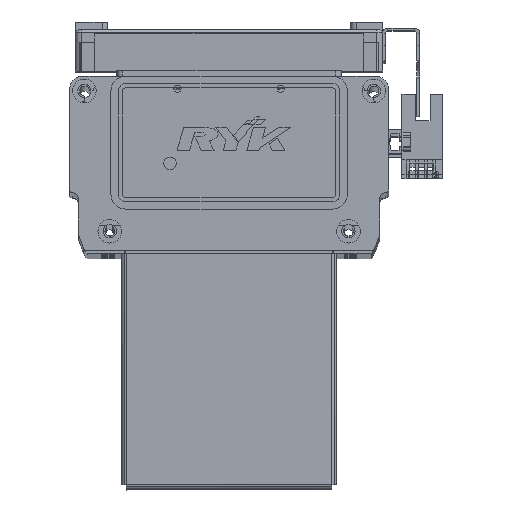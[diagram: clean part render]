
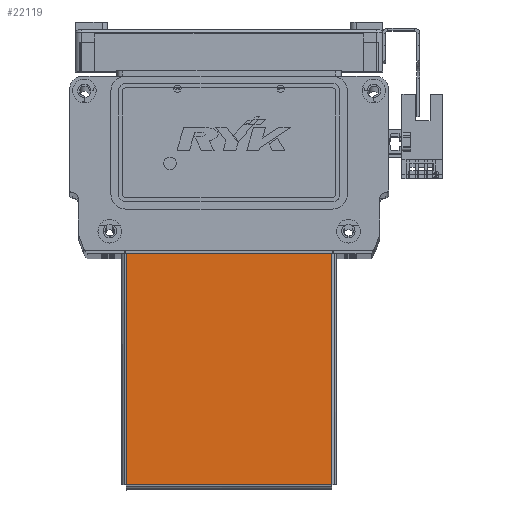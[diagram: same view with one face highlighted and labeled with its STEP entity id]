
A CAD part, top view. The second image highlights one B-rep face of the part: STEP entity #22119.
In plain terms, the highlighted planar face has unit normal (0, 0, 1) as drawn and (0, 1, 0) by its records, which use the part's own axes.
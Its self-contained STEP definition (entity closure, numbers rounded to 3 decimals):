
#1313 = ORIENTED_EDGE ( 'NONE', *, *, #35927, .T. ) ;
#1327 = ORIENTED_EDGE ( 'NONE', *, *, #35871, .T. ) ;
#1340 = ORIENTED_EDGE ( 'NONE', *, *, #35742, .T. ) ;
#1342 = ORIENTED_EDGE ( 'NONE', *, *, #35792, .T. ) ;
#2750 = CARTESIAN_POINT ( 'NONE',  ( -34.793, 0., 38.763 ) ) ;
#2774 = DIRECTION ( 'NONE',  ( 1., 0., 0. ) ) ;
#2839 = DIRECTION ( 'NONE',  ( 0., 0., 1. ) ) ;
#2858 = CARTESIAN_POINT ( 'NONE',  ( -34.763, 0., -39.5 ) ) ;
#2935 = CARTESIAN_POINT ( 'NONE',  ( 34.763, 0., 38.793 ) ) ;
#2957 = DIRECTION ( 'NONE',  ( 0., 0., -1. ) ) ;
#2975 = CARTESIAN_POINT ( 'NONE',  ( -35.5, 0., -39.5 ) ) ;
#2976 = DIRECTION ( 'NONE',  ( -1., 0., 0. ) ) ;
#5599 = VERTEX_POINT ( 'NONE', #23843 ) ;
#5600 = VERTEX_POINT ( 'NONE', #23867 ) ;
#5629 = VERTEX_POINT ( 'NONE', #23901 ) ;
#5648 = VERTEX_POINT ( 'NONE', #23967 ) ;
#10409 = AXIS2_PLACEMENT_3D ( 'NONE', #30656, #30645, #30648 ) ;
#10630 = VECTOR ( 'NONE', #2774, 1000. ) ;
#10657 = LINE ( 'NONE', #2750, #10630 ) ;
#10699 = VECTOR ( 'NONE', #2839, 1000. ) ;
#10737 = LINE ( 'NONE', #2858, #10699 ) ;
#10770 = LINE ( 'NONE', #2935, #10771 ) ;
#10771 = VECTOR ( 'NONE', #2957, 1000. ) ;
#10839 = LINE ( 'NONE', #2975, #10860 ) ;
#10860 = VECTOR ( 'NONE', #2976, 1000. ) ;
#22119 = ADVANCED_FACE ( 'NONE', ( #46410 ), #30642, .T. ) ;
#23843 = CARTESIAN_POINT ( 'NONE',  ( -34.763, 0., -39.5 ) ) ;
#23867 = CARTESIAN_POINT ( 'NONE',  ( 34.763, 0., 38.763 ) ) ;
#23901 = CARTESIAN_POINT ( 'NONE',  ( -34.763, 0., 38.763 ) ) ;
#23967 = CARTESIAN_POINT ( 'NONE',  ( 34.763, 0., -39.5 ) ) ;
#25204 = EDGE_LOOP ( 'NONE', ( #1342, #1340, #1327, #1313 ) ) ;
#30642 = PLANE ( 'NONE',  #10409 ) ;
#30645 = DIRECTION ( 'NONE',  ( 0., 1., 0. ) ) ;
#30648 = DIRECTION ( 'NONE',  ( 0., 0., 1. ) ) ;
#30656 = CARTESIAN_POINT ( 'NONE',  ( 0., 0., 0. ) ) ;
#35742 = EDGE_CURVE ( 'NONE', #5629, #5600, #10657, .T. ) ;
#35792 = EDGE_CURVE ( 'NONE', #5599, #5629, #10737, .T. ) ;
#35871 = EDGE_CURVE ( 'NONE', #5600, #5648, #10770, .T. ) ;
#35927 = EDGE_CURVE ( 'NONE', #5648, #5599, #10839, .T. ) ;
#46410 = FACE_OUTER_BOUND ( 'NONE', #25204, .T. ) ;
